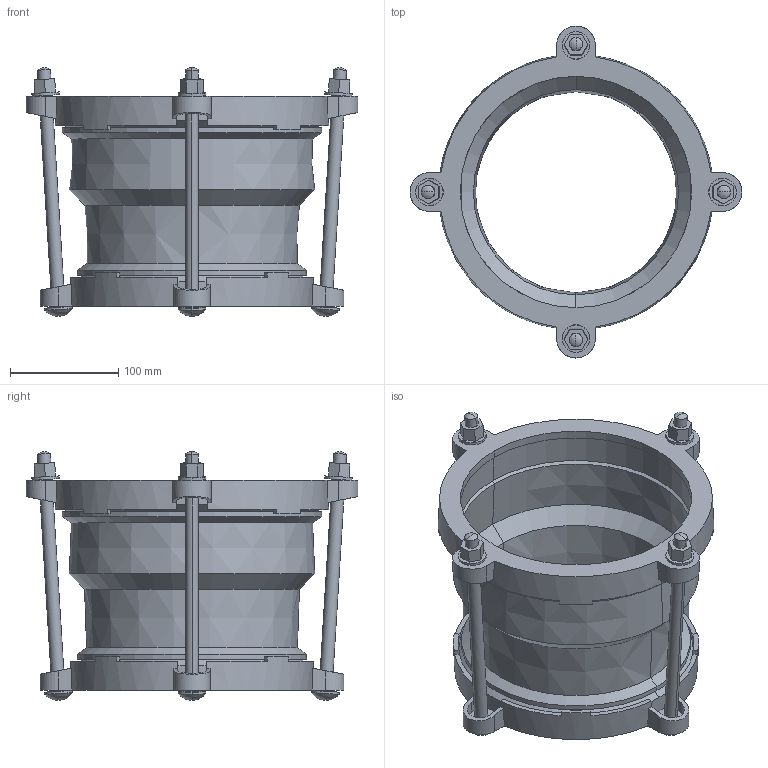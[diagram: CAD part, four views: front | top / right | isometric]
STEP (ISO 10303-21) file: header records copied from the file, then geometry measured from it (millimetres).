
FILE_DESCRIPTION((''),'2;1');
FILE_NAME('BIM_12395_7','2018-10-09T',('MReader'),(''),'CREO PARAMETRIC BY PTC INC, 2016130','CREO PARAMETRIC BY PTC INC, 2016130','');
FILE_SCHEMA(('CONFIG_CONTROL_DESIGN'));
Length unit declared in the file: millimetre
Products named in the file (1): BIM_12395_7
Bounding box: 306.5 x 306.5 x 229.56 mm (x, y, z)
Volume: 1344967.2 mm3; surface area: 418582.9 mm2
Topology: 2 solids, 2 shells, 282 faces, 732 edges, 460 vertices
Faces by surface type: plane 122, cylinder 84, cone 60, sphere 16
Entity records: 9145 total; most frequent: CARTESIAN_POINT 2343, ORIENTED_EDGE 1432, DIRECTION 1380, EDGE_CURVE 716, AXIS2_PLACEMENT_3D 526, VERTEX_POINT 460, VECTOR 328, LINE 328
